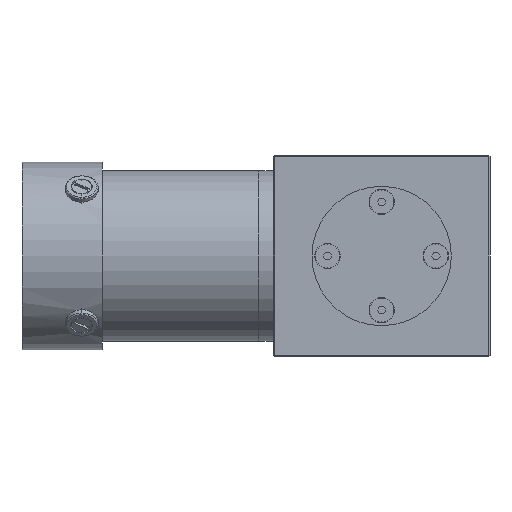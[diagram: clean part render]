
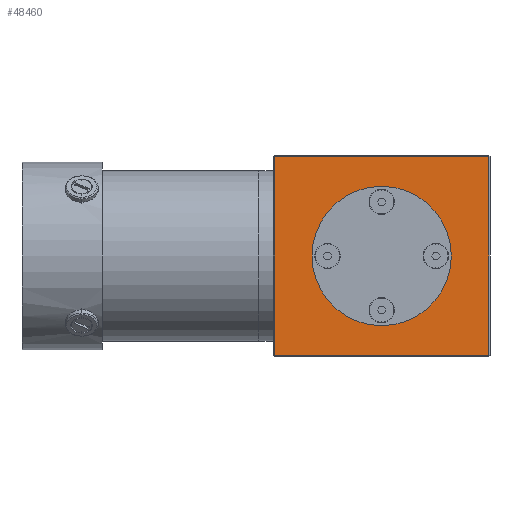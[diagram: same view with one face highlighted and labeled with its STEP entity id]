
A CAD part, left-side view. The second image highlights one B-rep face of the part: STEP entity #48460.
In plain terms, the highlighted planar face has unit normal (-1, 0, 0).
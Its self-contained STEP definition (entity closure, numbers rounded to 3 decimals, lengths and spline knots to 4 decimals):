
#440 = CARTESIAN_POINT ( 'NONE',  ( 3.7044, 3.8222, 4.3102 ) ) ;
#1718 = ORIENTED_EDGE ( 'NONE', *, *, #27579, .F. ) ;
#2220 = EDGE_CURVE ( 'NONE', #29031, #32293, #25144, .T. ) ;
#3490 = VERTEX_POINT ( 'NONE', #13873 ) ;
#5333 = ORIENTED_EDGE ( 'NONE', *, *, #31522, .T. ) ;
#6846 = DIRECTION ( 'NONE',  ( -1., 0., 0. ) ) ;
#7053 = CARTESIAN_POINT ( 'NONE',  ( 3.7044, 2.0922, 2.7052 ) ) ;
#8317 = VECTOR ( 'NONE', #10962, 39.3701 ) ;
#9641 = DIRECTION ( 'NONE',  ( 0., -1., 0. ) ) ;
#10754 = CIRCLE ( 'NONE', #30938, 1.125 ) ;
#10962 = DIRECTION ( 'NONE',  ( 0., 0., -1. ) ) ;
#11146 = CARTESIAN_POINT ( 'NONE',  ( 3.7044, 3.8222, 4.3302 ) ) ;
#11186 = DIRECTION ( 'NONE',  ( 1., 0., 0. ) ) ;
#12224 = ORIENTED_EDGE ( 'NONE', *, *, #55584, .F. ) ;
#13873 = CARTESIAN_POINT ( 'NONE',  ( 3.7044, 0.3622, 1.1002 ) ) ;
#15334 = CARTESIAN_POINT ( 'NONE',  ( 3.7044, 3.8422, 4.3302 ) ) ;
#16296 = CARTESIAN_POINT ( 'NONE',  ( 3.7044, 3.8422, 4.3102 ) ) ;
#17803 = VERTEX_POINT ( 'NONE', #21401 ) ;
#17836 = DIRECTION ( 'NONE',  ( 0., -1., 0. ) ) ;
#18027 = VERTEX_POINT ( 'NONE', #48894 ) ;
#18324 = CARTESIAN_POINT ( 'NONE',  ( 3.7044, 3.8422, 1.1002 ) ) ;
#19154 = AXIS2_PLACEMENT_3D ( 'NONE', #15334, #11186, #24746 ) ;
#20829 = DIRECTION ( 'NONE',  ( 0., 1., 0. ) ) ;
#21401 = CARTESIAN_POINT ( 'NONE',  ( 3.7044, 0.3622, 4.3102 ) ) ;
#24746 = DIRECTION ( 'NONE',  ( 0., 1., 0. ) ) ;
#25144 = LINE ( 'NONE', #11146, #8317 ) ;
#26026 = VECTOR ( 'NONE', #29770, 39.3701 ) ;
#26731 = VECTOR ( 'NONE', #9641, 39.3701 ) ;
#26994 = LINE ( 'NONE', #16296, #27696 ) ;
#27579 = EDGE_CURVE ( 'NONE', #31625, #18027, #37129, .T. ) ;
#27696 = VECTOR ( 'NONE', #20829, 39.3701 ) ;
#27938 = EDGE_CURVE ( 'NONE', #32293, #3490, #56061, .T. ) ;
#29031 = VERTEX_POINT ( 'NONE', #440 ) ;
#29770 = DIRECTION ( 'NONE',  ( 0., 0., 1. ) ) ;
#30464 = EDGE_LOOP ( 'NONE', ( #1718, #12224 ) ) ;
#30938 = AXIS2_PLACEMENT_3D ( 'NONE', #7053, #6846, #38131 ) ;
#31522 = EDGE_CURVE ( 'NONE', #17803, #29031, #26994, .T. ) ;
#31625 = VERTEX_POINT ( 'NONE', #44402 ) ;
#32293 = VERTEX_POINT ( 'NONE', #32467 ) ;
#32467 = CARTESIAN_POINT ( 'NONE',  ( 3.7044, 3.8222, 1.1002 ) ) ;
#33165 = FACE_BOUND ( 'NONE', #30464, .T. ) ;
#37129 = CIRCLE ( 'NONE', #38968, 1.125 ) ;
#38131 = DIRECTION ( 'NONE',  ( 0., -1., 0. ) ) ;
#38797 = FACE_OUTER_BOUND ( 'NONE', #49027, .T. ) ;
#38968 = AXIS2_PLACEMENT_3D ( 'NONE', #58025, #53520, #17836 ) ;
#42069 = PLANE ( 'NONE',  #19154 ) ;
#43074 = CARTESIAN_POINT ( 'NONE',  ( 3.7044, 0.3622, 4.3302 ) ) ;
#44402 = CARTESIAN_POINT ( 'NONE',  ( 3.7044, 0.9672, 2.7052 ) ) ;
#48460 = ADVANCED_FACE ( 'NONE', ( #38797, #33165 ), #42069, .F. ) ;
#48894 = CARTESIAN_POINT ( 'NONE',  ( 3.7044, 3.2172, 2.7052 ) ) ;
#49027 = EDGE_LOOP ( 'NONE', ( #49162, #54861, #53905, #5333 ) ) ;
#49162 = ORIENTED_EDGE ( 'NONE', *, *, #2220, .T. ) ;
#53520 = DIRECTION ( 'NONE',  ( -1., 0., 0. ) ) ;
#53905 = ORIENTED_EDGE ( 'NONE', *, *, #57726, .T. ) ;
#53940 = LINE ( 'NONE', #43074, #26026 ) ;
#54861 = ORIENTED_EDGE ( 'NONE', *, *, #27938, .T. ) ;
#55584 = EDGE_CURVE ( 'NONE', #18027, #31625, #10754, .T. ) ;
#56061 = LINE ( 'NONE', #18324, #26731 ) ;
#57726 = EDGE_CURVE ( 'NONE', #3490, #17803, #53940, .T. ) ;
#58025 = CARTESIAN_POINT ( 'NONE',  ( 3.7044, 2.0922, 2.7052 ) ) ;
